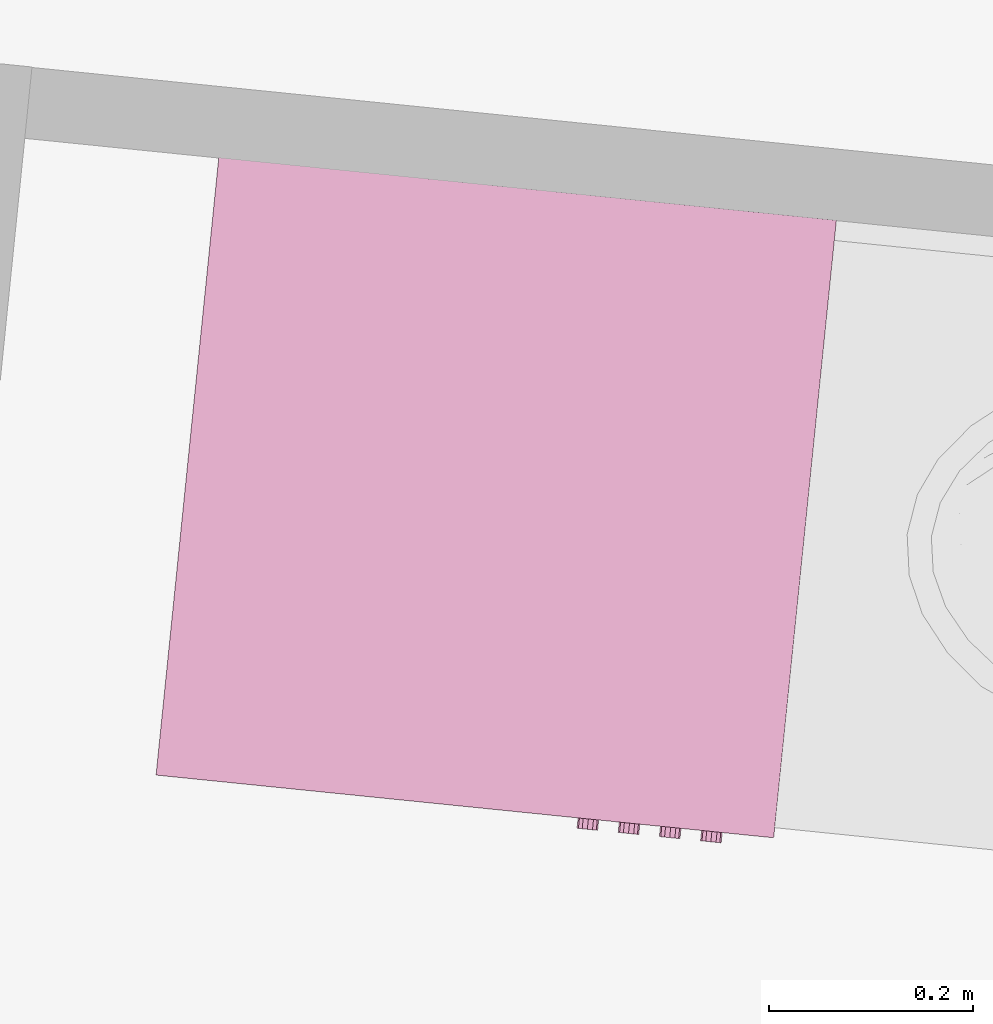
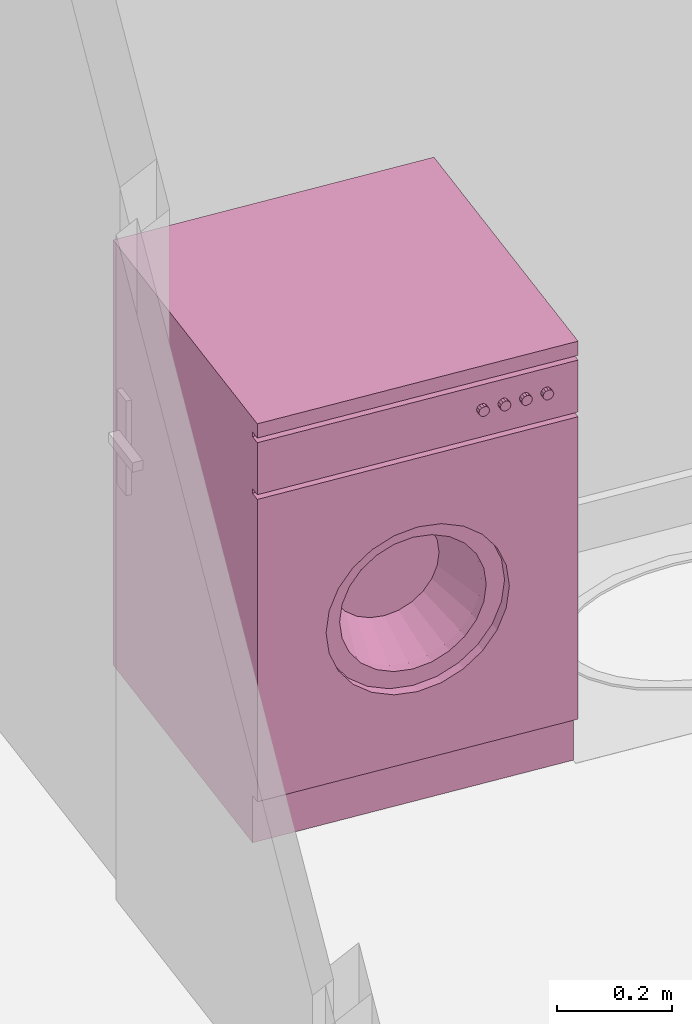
# One storey, part 143 of 171: 1 furnishing.
"""IFC2X3 building model written with IfcOpenShell, lengths in millimetres."""

from ifc_helpers import new_model, entity, si_unit, converted_unit, derived_unit, money_unit, direction, frame, origin_with_axes, place, context, subcontext, project, spatial, open_shell, faceted_brep, surface_model, source, transform, mapped, type_object, element, save


model = new_model("IFC2X3")

# Units and contexts
model_context = context("Model", 3, precision=0.01, world=origin_with_axes(), true_north=direction((0.0, 1.0)))
body_context = subcontext(model_context, "Body", "Model", "MODEL_VIEW")
ifc_project = project(units=[si_unit("LENGTHUNIT", "METRE", prefix="MILLI"), si_unit("AREAUNIT", "SQUARE_METRE"), si_unit("VOLUMEUNIT", "CUBIC_METRE"), converted_unit("PLANEANGLEUNIT", "DEGREE", entity("IfcPlaneAngleMeasure", 0.0174532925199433), si_unit("PLANEANGLEUNIT", "RADIAN"), dimensions=[0, 0, 0, 0, 0, 0, 0]), money_unit("USD"), converted_unit("TIMEUNIT", "Year", entity("IfcTimeMeasure", 31557600.0), si_unit("TIMEUNIT", "SECOND"), dimensions=[0, 0, 1, 0, 0, 0, 0]), si_unit("MASSUNIT", "GRAM", prefix="KILO"), si_unit("THERMODYNAMICTEMPERATUREUNIT", "DEGREE_CELSIUS"), si_unit("LUMINOUSINTENSITYUNIT", "LUMEN"), si_unit("ENERGYUNIT", "JOULE", prefix="MEGA"), derived_unit("THERMALCONDUCTANCEUNIT", [(si_unit("POWERUNIT", "WATT"), 1), (si_unit("LENGTHUNIT", "METRE"), -1), (si_unit("THERMODYNAMICTEMPERATUREUNIT", "KELVIN"), -1)]), derived_unit("SPECIFICHEATCAPACITYUNIT", [(si_unit("ENERGYUNIT", "JOULE"), 1), (si_unit("MASSUNIT", "GRAM", prefix="KILO"), -1), (si_unit("THERMODYNAMICTEMPERATUREUNIT", "KELVIN"), -1)]), derived_unit("MASSDENSITYUNIT", [(si_unit("MASSUNIT", "GRAM", prefix="KILO"), 1), (si_unit("VOLUMEUNIT", "CUBIC_METRE"), -1)])], contexts=[model_context])

# Site, building, storey
site_placement = place(None, origin_with_axes())
site = spatial("IfcSite", under=ifc_project, at=site_placement, Name="Site", CompositionType="ELEMENT")
building_placement = place(site_placement, origin_with_axes())
building = spatial("IfcBuilding", under=site, at=building_placement, Name="Bâtiment", CompositionType="ELEMENT")
storey_placement = place(building_placement, frame((0.0, 0.0, 3000.0), z_axis=(0.0, 0.0, 1.0), x_axis=(1.0, 0.0, 0.0)))
storey = spatial("IfcBuildingStorey", under=building, at=storey_placement, Name="rdc", CompositionType="ELEMENT", Elevation=3000.0)

# Furnishing
furnishing_element_type = type_object("IfcFurnishingElementType", Name="Machine à laver")
shared_shape = source(origin_with_axes(), body_context, "Body", "SurfaceModel", [
    faceted_brep([(0.0, 20.33333333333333, 100.0), (0.0, 0.0, 100.0), (-610.0, 0.0, 100.0), (-610.0, 20.33333333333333, 100.0), (0.0, 20.33333333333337, 740.0), (0.0, 0.0, 740.0), (-610.0, 0.0, 740.0), (-479.2857142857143, 0.0, 420.0000000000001), (-473.3470725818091, 0.0, 465.1084621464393), (-455.935856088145, 0.0, 507.1428571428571), (-428.2386104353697, 0.0, 543.2386104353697), (-392.1428571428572, 0.0, 570.935856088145), (-350.1084621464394, 0.0, 588.347072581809), (-305.0000000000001, 0.0, 594.2857142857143), (-259.8915378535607, 0.0, 588.347072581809), (-217.8571428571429, 0.0, 570.9358560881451), (-181.7613895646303, 0.0, 543.2386104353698), (-154.0641439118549, 0.0, 507.1428571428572), (-136.6529274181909, 0.0, 465.1084621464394), (-130.7142857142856, 0.0, 420.0000000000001), (-136.6529274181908, 0.0, 374.8915378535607), (-154.0641439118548, 0.0, 332.8571428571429), (-181.7613895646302, 0.0, 296.7613895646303), (-217.8571428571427, 0.0, 269.064143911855), (-259.8915378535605, 0.0, 251.6529274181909), (-304.9999999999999, 0.0, 245.7142857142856), (-350.1084621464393, 0.0, 251.6529274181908), (-392.1428571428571, 0.0, 269.0641439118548), (-428.2386104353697, 0.0, 296.7613895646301), (-455.935856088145, 0.0, 332.8571428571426), (-473.3470725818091, 0.0, 374.8915378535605), (-610.0, 20.33333333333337, 740.0), (-479.2857142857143, 20.33333333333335, 420.0000000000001), (-473.3470725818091, 20.33333333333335, 374.8915378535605), (-455.935856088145, 20.33333333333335, 332.8571428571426), (-428.2386104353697, 20.33333333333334, 296.7613895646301), (-392.1428571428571, 20.33333333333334, 269.0641439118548), (-350.1084621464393, 20.33333333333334, 251.6529274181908), (-304.9999999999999, 20.33333333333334, 245.7142857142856), (-259.8915378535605, 20.33333333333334, 251.6529274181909), (-217.8571428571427, 20.33333333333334, 269.064143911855), (-181.7613895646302, 20.33333333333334, 296.7613895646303), (-154.0641439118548, 20.33333333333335, 332.8571428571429), (-136.6529274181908, 20.33333333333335, 374.8915378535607), (-130.7142857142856, 20.33333333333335, 420.0000000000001), (-136.6529274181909, 20.33333333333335, 465.1084621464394), (-154.0641439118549, 20.33333333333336, 507.1428571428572), (-181.7613895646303, 20.33333333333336, 543.2386104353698), (-217.8571428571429, 20.33333333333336, 570.9358560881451), (-259.8915378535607, 20.33333333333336, 588.347072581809), (-305.0000000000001, 20.33333333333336, 594.2857142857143), (-350.1084621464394, 20.33333333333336, 588.347072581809), (-392.1428571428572, 20.33333333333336, 570.935856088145), (-428.2386104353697, 20.33333333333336, 543.2386104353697), (-455.935856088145, 20.33333333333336, 507.1428571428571), (-473.3470725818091, 20.33333333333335, 465.1084621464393)], [[[0, 1, 2, 3]], [[4, 5, 1, 0]], [[1, 5, 6, 2], [7, 8, 9, 10, 11, 12, 13, 14, 15, 16, 17, 18, 19, 20, 21, 22, 23, 24, 25, 26, 27, 28, 29, 30]], [[3, 2, 6, 31]], [[0, 3, 31, 4], [32, 33, 34, 35, 36, 37, 38, 39, 40, 41, 42, 43, 44, 45, 46, 47, 48, 49, 50, 51, 52, 53, 54, 55]], [[31, 6, 5, 4]], [[55, 8, 7, 32]], [[54, 9, 8, 55]], [[53, 10, 9, 54]], [[52, 11, 10, 53]], [[51, 12, 11, 52]], [[50, 13, 12, 51]], [[49, 14, 13, 50]], [[48, 15, 14, 49]], [[47, 16, 15, 48]], [[46, 17, 16, 47]], [[45, 18, 17, 46]], [[44, 19, 18, 45]], [[43, 20, 19, 44]], [[42, 21, 20, 43]], [[41, 22, 21, 42]], [[40, 23, 22, 41]], [[39, 24, 23, 40]], [[38, 25, 24, 39]], [[37, 26, 25, 38]], [[36, 27, 26, 37]], [[35, 28, 27, 36]], [[34, 29, 28, 35]], [[33, 30, 29, 34]], [[32, 7, 30, 33]]]),
    faceted_brep([(-479.2857142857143, 40.66666666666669, 420.0000000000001), (-479.2857142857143, 20.33333333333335, 420.0000000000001), (-473.3470725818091, 20.33333333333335, 465.1084621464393), (-473.3470725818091, 40.66666666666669, 465.1084621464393), (-473.3470725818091, 40.66666666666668, 374.8915378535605), (-473.3470725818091, 20.33333333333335, 374.8915378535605), (-455.935856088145, 20.33333333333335, 332.8571428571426), (-428.2386104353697, 20.33333333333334, 296.7613895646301), (-392.1428571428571, 20.33333333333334, 269.0641439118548), (-350.1084621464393, 20.33333333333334, 251.6529274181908), (-304.9999999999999, 20.33333333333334, 245.7142857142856), (-259.8915378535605, 20.33333333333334, 251.6529274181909), (-217.8571428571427, 20.33333333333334, 269.064143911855), (-181.7613895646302, 20.33333333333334, 296.7613895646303), (-154.0641439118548, 20.33333333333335, 332.8571428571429), (-136.6529274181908, 20.33333333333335, 374.8915378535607), (-130.7142857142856, 20.33333333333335, 420.0000000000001), (-136.6529274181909, 20.33333333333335, 465.1084621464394), (-154.0641439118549, 20.33333333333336, 507.1428571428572), (-181.7613895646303, 20.33333333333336, 543.2386104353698), (-217.8571428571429, 20.33333333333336, 570.9358560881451), (-259.8915378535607, 20.33333333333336, 588.347072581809), (-305.0000000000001, 20.33333333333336, 594.2857142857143), (-350.1084621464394, 20.33333333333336, 588.347072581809), (-392.1428571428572, 20.33333333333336, 570.935856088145), (-428.2386104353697, 20.33333333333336, 543.2386104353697), (-455.935856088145, 20.33333333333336, 507.1428571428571), (-444.4285714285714, 20.33333333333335, 420.0000000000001), (-439.6776580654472, 20.33333333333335, 456.0867697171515), (-425.748684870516, 20.33333333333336, 489.7142857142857), (-403.5908883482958, 20.33333333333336, 518.5908883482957), (-374.7142857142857, 20.33333333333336, 540.748684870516), (-341.0867697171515, 20.33333333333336, 554.6776580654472), (-305.0000000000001, 20.33333333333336, 559.4285714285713), (-268.9132302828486, 20.33333333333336, 554.6776580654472), (-235.2857142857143, 20.33333333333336, 540.7486848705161), (-206.4091116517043, 20.33333333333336, 518.5908883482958), (-184.251315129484, 20.33333333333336, 489.7142857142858), (-170.3223419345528, 20.33333333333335, 456.0867697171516), (-165.5714285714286, 20.33333333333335, 420.0000000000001), (-170.3223419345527, 20.33333333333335, 383.9132302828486), (-184.2513151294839, 20.33333333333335, 350.2857142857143), (-206.4091116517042, 20.33333333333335, 321.4091116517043), (-235.2857142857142, 20.33333333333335, 299.251315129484), (-268.9132302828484, 20.33333333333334, 285.3223419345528), (-304.9999999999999, 20.33333333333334, 280.5714285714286), (-341.0867697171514, 20.33333333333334, 285.3223419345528), (-374.7142857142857, 20.33333333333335, 299.2513151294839), (-403.5908883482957, 20.33333333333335, 321.4091116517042), (-425.748684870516, 20.33333333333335, 350.2857142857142), (-439.6776580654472, 20.33333333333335, 383.9132302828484), (-455.935856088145, 40.66666666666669, 507.1428571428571), (-428.2386104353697, 40.66666666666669, 543.2386104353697), (-392.1428571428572, 40.66666666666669, 570.935856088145), (-350.1084621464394, 40.66666666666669, 588.347072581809), (-305.0000000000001, 40.66666666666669, 594.2857142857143), (-259.8915378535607, 40.66666666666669, 588.347072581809), (-217.8571428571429, 40.66666666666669, 570.9358560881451), (-181.7613895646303, 40.66666666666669, 543.2386104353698), (-154.0641439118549, 40.66666666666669, 507.1428571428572), (-136.6529274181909, 40.66666666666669, 465.1084621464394), (-130.7142857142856, 40.66666666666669, 420.0000000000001), (-136.6529274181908, 40.66666666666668, 374.8915378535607), (-154.0641439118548, 40.66666666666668, 332.8571428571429), (-181.7613895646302, 40.66666666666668, 296.7613895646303), (-217.8571428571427, 40.66666666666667, 269.064143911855), (-259.8915378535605, 40.66666666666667, 251.6529274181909), (-304.9999999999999, 40.66666666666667, 245.7142857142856), (-350.1084621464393, 40.66666666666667, 251.6529274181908), (-392.1428571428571, 40.66666666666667, 269.0641439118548), (-428.2386104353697, 40.66666666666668, 296.7613895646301), (-455.935856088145, 40.66666666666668, 332.8571428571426), (-444.4285714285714, 40.66666666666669, 420.0000000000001), (-439.6776580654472, 40.66666666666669, 383.9132302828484), (-425.748684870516, 40.66666666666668, 350.2857142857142), (-403.5908883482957, 40.66666666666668, 321.4091116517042), (-374.7142857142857, 40.66666666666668, 299.2513151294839), (-341.0867697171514, 40.66666666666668, 285.3223419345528), (-304.9999999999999, 40.66666666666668, 280.5714285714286), (-268.9132302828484, 40.66666666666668, 285.3223419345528), (-235.2857142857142, 40.66666666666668, 299.251315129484), (-206.4091116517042, 40.66666666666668, 321.4091116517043), (-184.2513151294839, 40.66666666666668, 350.2857142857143), (-170.3223419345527, 40.66666666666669, 383.9132302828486), (-165.5714285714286, 40.66666666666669, 420.0000000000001), (-170.3223419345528, 40.66666666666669, 456.0867697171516), (-184.251315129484, 40.66666666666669, 489.7142857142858), (-206.4091116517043, 40.66666666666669, 518.5908883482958), (-235.2857142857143, 40.66666666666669, 540.7486848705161), (-268.9132302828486, 40.66666666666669, 554.6776580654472), (-305.0000000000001, 40.66666666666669, 559.4285714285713), (-341.0867697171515, 40.66666666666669, 554.6776580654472), (-374.7142857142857, 40.66666666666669, 540.748684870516), (-403.5908883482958, 40.66666666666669, 518.5908883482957), (-425.748684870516, 40.66666666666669, 489.7142857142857), (-439.6776580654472, 40.66666666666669, 456.0867697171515)], [[[0, 1, 2, 3]], [[4, 5, 1, 0]], [[1, 5, 6, 7, 8, 9, 10, 11, 12, 13, 14, 15, 16, 17, 18, 19, 20, 21, 22, 23, 24, 25, 26, 2], [27, 28, 29, 30, 31, 32, 33, 34, 35, 36, 37, 38, 39, 40, 41, 42, 43, 44, 45, 46, 47, 48, 49, 50]], [[3, 2, 26, 51]], [[0, 3, 51, 52, 53, 54, 55, 56, 57, 58, 59, 60, 61, 62, 63, 64, 65, 66, 67, 68, 69, 70, 71, 4], [72, 73, 74, 75, 76, 77, 78, 79, 80, 81, 82, 83, 84, 85, 86, 87, 88, 89, 90, 91, 92, 93, 94, 95]], [[71, 6, 5, 4]], [[70, 7, 6, 71]], [[69, 8, 7, 70]], [[68, 9, 8, 69]], [[67, 10, 9, 68]], [[66, 11, 10, 67]], [[65, 12, 11, 66]], [[64, 13, 12, 65]], [[63, 14, 13, 64]], [[62, 15, 14, 63]], [[61, 16, 15, 62]], [[60, 17, 16, 61]], [[59, 18, 17, 60]], [[58, 19, 18, 59]], [[57, 20, 19, 58]], [[56, 21, 20, 57]], [[55, 22, 21, 56]], [[54, 23, 22, 55]], [[53, 24, 23, 54]], [[52, 25, 24, 53]], [[51, 26, 25, 52]], [[95, 28, 27, 72]], [[94, 29, 28, 95]], [[93, 30, 29, 94]], [[92, 31, 30, 93]], [[91, 32, 31, 92]], [[90, 33, 32, 91]], [[89, 34, 33, 90]], [[88, 35, 34, 89]], [[87, 36, 35, 88]], [[86, 37, 36, 87]], [[85, 38, 37, 86]], [[84, 39, 38, 85]], [[83, 40, 39, 84]], [[82, 41, 40, 83]], [[81, 42, 41, 82]], [[80, 43, 42, 81]], [[79, 44, 43, 80]], [[78, 45, 44, 79]], [[77, 46, 45, 78]], [[76, 47, 46, 77]], [[75, 48, 47, 76]], [[74, 49, 48, 75]], [[73, 50, 49, 74]], [[72, 27, 50, 73]]]),
    surface_model("IfcShellBasedSurfaceModel", [(-268.9132302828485, 40.6666666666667, 554.6776580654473), (-277.9349227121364, 142.3333333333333, 521.0082435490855), (-305.0, 142.3333333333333, 524.5714285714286), (-305.0, 40.6666666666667, 559.4285714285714), (-235.2857142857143, 40.6666666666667, 540.7486848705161), (-252.7142857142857, 142.3333333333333, 510.5615136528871), (-231.0568337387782, 142.3333333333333, 493.9431662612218), (-214.438486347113, 142.3333333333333, 472.2857142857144), (-203.9917564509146, 142.3333333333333, 447.0650772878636), (-200.4285714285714, 142.3333333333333, 420.0000000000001), (-203.9917564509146, 142.3333333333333, 392.9349227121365), (-214.4384863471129, 142.3333333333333, 367.7142857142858), (-231.0568337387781, 142.3333333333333, 346.0568337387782), (-252.7142857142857, 142.3333333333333, 329.438486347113), (-277.9349227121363, 142.3333333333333, 318.9917564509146), (-304.9999999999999, 142.3333333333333, 315.4285714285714), (-332.0650772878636, 142.3333333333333, 318.9917564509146), (-357.2857142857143, 142.3333333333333, 329.438486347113), (-378.9431662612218, 142.3333333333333, 346.0568337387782), (-395.561513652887, 142.3333333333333, 367.7142857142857), (-406.0082435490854, 142.3333333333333, 392.9349227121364), (-409.5714285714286, 142.3333333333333, 420.0), (-406.0082435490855, 142.3333333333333, 447.0650772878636), (-395.5615136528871, 142.3333333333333, 472.2857142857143), (-378.9431662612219, 142.3333333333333, 493.9431662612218), (-357.2857142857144, 142.3333333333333, 510.5615136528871), (-332.0650772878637, 142.3333333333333, 521.0082435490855), (-341.0867697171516, 40.6666666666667, 554.6776580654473), (-206.4091116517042, 40.66666666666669, 518.5908883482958), (-184.251315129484, 40.66666666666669, 489.7142857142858), (-170.3223419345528, 40.66666666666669, 456.0867697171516), (-165.5714285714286, 40.66666666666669, 420.0000000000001), (-170.3223419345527, 40.66666666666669, 383.9132302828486), (-184.2513151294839, 40.66666666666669, 350.2857142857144), (-206.4091116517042, 40.66666666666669, 321.4091116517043), (-235.2857142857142, 40.66666666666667, 299.251315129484), (-268.9132302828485, 40.66666666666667, 285.3223419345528), (-304.9999999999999, 40.66666666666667, 280.5714285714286), (-341.0867697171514, 40.66666666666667, 285.3223419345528), (-374.7142857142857, 40.66666666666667, 299.2513151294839), (-403.5908883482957, 40.66666666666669, 321.4091116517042), (-425.748684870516, 40.66666666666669, 350.2857142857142), (-439.6776580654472, 40.66666666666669, 383.9132302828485), (-444.4285714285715, 40.66666666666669, 419.9999999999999), (-439.6776580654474, 40.66666666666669, 456.0867697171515), (-425.7486848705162, 40.66666666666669, 489.7142857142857), (-403.5908883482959, 40.66666666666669, 518.5908883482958), (-374.7142857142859, 40.6666666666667, 540.7486848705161)], [open_shell([[[0, 1, 2, 3]], [[4, 5, 1, 0]], [[2, 1, 5, 6, 7, 8, 9, 10, 11, 12, 13, 14, 15, 16, 17, 18, 19, 20, 21, 22, 23, 24, 25, 26]], [[3, 2, 26, 27]], [[28, 6, 5, 4]], [[29, 7, 6, 28]], [[30, 8, 7, 29]], [[31, 9, 8, 30]], [[32, 10, 9, 31]], [[33, 11, 10, 32]], [[34, 12, 11, 33]], [[35, 13, 12, 34]], [[36, 14, 13, 35]], [[37, 15, 14, 36]], [[38, 16, 15, 37]], [[39, 17, 16, 38]], [[40, 18, 17, 39]], [[41, 19, 18, 40]], [[42, 20, 19, 41]], [[43, 21, 20, 42]], [[44, 22, 21, 43]], [[45, 23, 22, 44]], [[46, 24, 23, 45]], [[47, 25, 24, 46]], [[27, 26, 25, 47]]])]),
    surface_model("IfcShellBasedSurfaceModel", [(0.0, 20.33333333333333, 100.0), (0.0, 610.0, 99.99999999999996), (0.0, 610.0, 870.0), (0.0, 20.33333333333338, 870.0)], [open_shell([[[0, 1, 2, 3]]])]),
    surface_model("IfcShellBasedSurfaceModel", [(-610.0, 20.33333333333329, 100.0), (-610.0, 610.0, 99.99999999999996), (-610.0, 610.0, 870.0), (-610.0, 20.33333333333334, 870.0)], [open_shell([[[0, 1, 2, 3]]])]),
    surface_model("IfcShellBasedSurfaceModel", [(0.0, 610.0, 100.0), (-610.0, 610.0, 100.0), (-610.0, 610.0, 870.0), (0.0, 610.0, 870.0)], [open_shell([[[0, 1, 2, 3]]])]),
    faceted_brep([(0.0, 20.33333333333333, 0.0), (0.0, 20.33333333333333, 100.0), (-610.0, 20.33333333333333, 100.0), (-610.0, 20.33333333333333, 0.0), (0.0, 610.3333333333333, 0.0), (0.0, 610.3333333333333, 100.0), (-610.0, 610.3333333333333, 100.0), (-610.0, 610.3333333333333, 0.0)], [[[0, 1, 2, 3]], [[4, 5, 1, 0]], [[1, 5, 6, 2]], [[3, 2, 6, 7]], [[0, 3, 7, 4]], [[7, 6, 5, 4]]]),
    faceted_brep([(0.0, 20.33333333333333, 750.0), (0.0, 0.0, 750.0), (-610.0, 0.0, 750.0), (-610.0, 20.33333333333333, 750.0), (0.0, 20.33333333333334, 860.0), (0.0, 0.0, 860.0), (-610.0, 0.0, 860.0), (-610.0, 20.33333333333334, 860.0)], [[[0, 1, 2, 3]], [[4, 5, 1, 0]], [[1, 5, 6, 2]], [[3, 2, 6, 7]], [[0, 3, 7, 4]], [[7, 6, 5, 4]]]),
    surface_model("IfcShellBasedSurfaceModel", [(0.0, 20.33333333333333, 739.8333333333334), (-610.0, 20.33333333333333, 739.8333333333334), (-610.0, 20.33333333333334, 869.8333333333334), (0.0, 20.33333333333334, 869.8333333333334)], [open_shell([[[0, 1, 2, 3]]])]),
    faceted_brep([(0.0, 0.0, 870.0), (0.0, 0.0, 900.0), (-610.0, 0.0, 900.0), (-610.0, 0.0, 870.0), (0.0, 610.0, 870.0), (0.0, 610.0, 900.0), (-610.0, 610.0, 900.0), (-610.0, 610.0, 870.0)], [[[0, 1, 2, 3]], [[4, 5, 1, 0]], [[1, 5, 6, 2]], [[3, 2, 6, 7]], [[0, 3, 7, 4]], [[7, 6, 5, 4]]]),
    faceted_brep([(-69.80459160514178, 0.0, 804.9166666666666), (-71.16666666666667, 0.0, 809.9999999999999), (-69.8045916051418, 0.0, 815.0833333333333), (-66.08333333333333, 0.0, 818.8045916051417), (-61.0, 0.0, 820.1666666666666), (-55.91666666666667, 0.0, 818.8045916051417), (-52.19540839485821, 0.0, 815.0833333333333), (-50.83333333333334, 0.0, 809.9999999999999), (-52.1954083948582, 0.0, 804.9166666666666), (-55.91666666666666, 0.0, 801.1954083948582), (-60.99999999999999, 0.0, 799.8333333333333), (-66.08333333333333, 0.0, 801.1954083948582), (-69.80459160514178, -10.16666666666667, 804.9166666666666), (-71.16666666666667, -10.16666666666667, 809.9999999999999), (-69.8045916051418, -10.16666666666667, 815.0833333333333), (-66.08333333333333, -10.16666666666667, 818.8045916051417), (-61.0, -10.16666666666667, 820.1666666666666), (-55.91666666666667, -10.16666666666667, 818.8045916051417), (-52.19540839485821, -10.16666666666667, 815.0833333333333), (-50.83333333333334, -10.16666666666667, 809.9999999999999), (-52.1954083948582, -10.16666666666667, 804.9166666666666), (-55.91666666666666, -10.16666666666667, 801.1954083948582), (-60.99999999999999, -10.16666666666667, 799.8333333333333), (-66.08333333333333, -10.16666666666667, 801.1954083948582)], [[[0, 1, 2, 3, 4, 5, 6, 7, 8, 9, 10, 11]], [[0, 12, 13, 1]], [[1, 13, 14, 2]], [[2, 14, 15, 3]], [[3, 15, 16, 4]], [[4, 16, 17, 5]], [[5, 17, 18, 6]], [[6, 18, 19, 7]], [[7, 19, 20, 8]], [[8, 20, 21, 9]], [[9, 21, 22, 10]], [[10, 22, 23, 11]], [[11, 23, 12, 0]], [[12, 23, 22, 21, 20, 19, 18, 17, 16, 15, 14, 13]]]),
    faceted_brep([(-110.4712582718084, 0.0, 804.9166666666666), (-111.8333333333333, 0.0, 809.9999999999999), (-110.4712582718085, 0.0, 815.0833333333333), (-106.75, 0.0, 818.8045916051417), (-101.6666666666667, 0.0, 820.1666666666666), (-96.58333333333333, 0.0, 818.8045916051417), (-92.86207506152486, 0.0, 815.0833333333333), (-91.49999999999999, 0.0, 809.9999999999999), (-92.86207506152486, 0.0, 804.9166666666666), (-96.58333333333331, 0.0, 801.1954083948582), (-101.6666666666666, 0.0, 799.8333333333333), (-106.75, 0.0, 801.1954083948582), (-110.4712582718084, -10.16666666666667, 804.9166666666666), (-111.8333333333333, -10.16666666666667, 809.9999999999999), (-110.4712582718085, -10.16666666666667, 815.0833333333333), (-106.75, -10.16666666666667, 818.8045916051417), (-101.6666666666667, -10.16666666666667, 820.1666666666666), (-96.58333333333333, -10.16666666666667, 818.8045916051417), (-92.86207506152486, -10.16666666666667, 815.0833333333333), (-91.49999999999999, -10.16666666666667, 809.9999999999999), (-92.86207506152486, -10.16666666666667, 804.9166666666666), (-96.58333333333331, -10.16666666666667, 801.1954083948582), (-101.6666666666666, -10.16666666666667, 799.8333333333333), (-106.75, -10.16666666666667, 801.1954083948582)], [[[0, 1, 2, 3, 4, 5, 6, 7, 8, 9, 10, 11]], [[0, 12, 13, 1]], [[1, 13, 14, 2]], [[2, 14, 15, 3]], [[3, 15, 16, 4]], [[4, 16, 17, 5]], [[5, 17, 18, 6]], [[6, 18, 19, 7]], [[7, 19, 20, 8]], [[8, 20, 21, 9]], [[9, 21, 22, 10]], [[10, 22, 23, 11]], [[11, 23, 12, 0]], [[12, 23, 22, 21, 20, 19, 18, 17, 16, 15, 14, 13]]]),
    faceted_brep([(-151.1379249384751, 0.0, 804.9166666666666), (-152.5, 0.0, 809.9999999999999), (-151.1379249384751, 0.0, 815.0833333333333), (-147.4166666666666, 0.0, 818.8045916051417), (-142.3333333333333, 0.0, 820.1666666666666), (-137.25, 0.0, 818.8045916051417), (-133.5287417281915, 0.0, 815.0833333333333), (-132.1666666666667, 0.0, 809.9999999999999), (-133.5287417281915, 0.0, 804.9166666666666), (-137.25, 0.0, 801.1954083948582), (-142.3333333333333, 0.0, 799.8333333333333), (-147.4166666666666, 0.0, 801.1954083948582), (-151.1379249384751, -10.16666666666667, 804.9166666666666), (-152.5, -10.16666666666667, 809.9999999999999), (-151.1379249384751, -10.16666666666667, 815.0833333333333), (-147.4166666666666, -10.16666666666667, 818.8045916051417), (-142.3333333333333, -10.16666666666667, 820.1666666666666), (-137.25, -10.16666666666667, 818.8045916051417), (-133.5287417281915, -10.16666666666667, 815.0833333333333), (-132.1666666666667, -10.16666666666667, 809.9999999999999), (-133.5287417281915, -10.16666666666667, 804.9166666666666), (-137.25, -10.16666666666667, 801.1954083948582), (-142.3333333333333, -10.16666666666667, 799.8333333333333), (-147.4166666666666, -10.16666666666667, 801.1954083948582)], [[[0, 1, 2, 3, 4, 5, 6, 7, 8, 9, 10, 11]], [[0, 12, 13, 1]], [[1, 13, 14, 2]], [[2, 14, 15, 3]], [[3, 15, 16, 4]], [[4, 16, 17, 5]], [[5, 17, 18, 6]], [[6, 18, 19, 7]], [[7, 19, 20, 8]], [[8, 20, 21, 9]], [[9, 21, 22, 10]], [[10, 22, 23, 11]], [[11, 23, 12, 0]], [[12, 23, 22, 21, 20, 19, 18, 17, 16, 15, 14, 13]]]),
    faceted_brep([(-191.8045916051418, 0.0, 804.9166666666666), (-193.1666666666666, 0.0, 809.9999999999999), (-191.8045916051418, 0.0, 815.0833333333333), (-188.0833333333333, 0.0, 818.8045916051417), (-183.0, 0.0, 820.1666666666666), (-177.9166666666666, 0.0, 818.8045916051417), (-174.1954083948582, 0.0, 815.0833333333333), (-172.8333333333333, 0.0, 809.9999999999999), (-174.1954083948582, 0.0, 804.9166666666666), (-177.9166666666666, 0.0, 801.1954083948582), (-183.0, 0.0, 799.8333333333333), (-188.0833333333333, 0.0, 801.1954083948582), (-191.8045916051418, -10.16666666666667, 804.9166666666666), (-193.1666666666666, -10.16666666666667, 809.9999999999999), (-191.8045916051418, -10.16666666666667, 815.0833333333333), (-188.0833333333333, -10.16666666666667, 818.8045916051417), (-183.0, -10.16666666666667, 820.1666666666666), (-177.9166666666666, -10.16666666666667, 818.8045916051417), (-174.1954083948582, -10.16666666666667, 815.0833333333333), (-172.8333333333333, -10.16666666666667, 809.9999999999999), (-174.1954083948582, -10.16666666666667, 804.9166666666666), (-177.9166666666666, -10.16666666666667, 801.1954083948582), (-183.0, -10.16666666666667, 799.8333333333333), (-188.0833333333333, -10.16666666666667, 801.1954083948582)], [[[0, 1, 2, 3, 4, 5, 6, 7, 8, 9, 10, 11]], [[0, 12, 13, 1]], [[1, 13, 14, 2]], [[2, 14, 15, 3]], [[3, 15, 16, 4]], [[4, 16, 17, 5]], [[5, 17, 18, 6]], [[6, 18, 19, 7]], [[7, 19, 20, 8]], [[8, 20, 21, 9]], [[9, 21, 22, 10]], [[10, 22, 23, 11]], [[11, 23, 12, 0]], [[12, 23, 22, 21, 20, 19, 18, 17, 16, 15, 14, 13]]]),
])
furnishing_placement = place(storey_placement, frame((2238422.458214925, -611318.8692225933, 0.0), z_axis=(0.0, 0.0, 1.0), x_axis=(0.994882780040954, -0.1010359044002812, 0.0)))
element("IfcFurnishingElement", 1, at=furnishing_placement, inside=storey, type_object=furnishing_element_type, Name="Obj.-003", context=body_context, shape_type="MappedRepresentation", body=[
    mapped(shared_shape, transform((0.0, 0.0, 0.0))),
])

save(model, "model.ifc")
